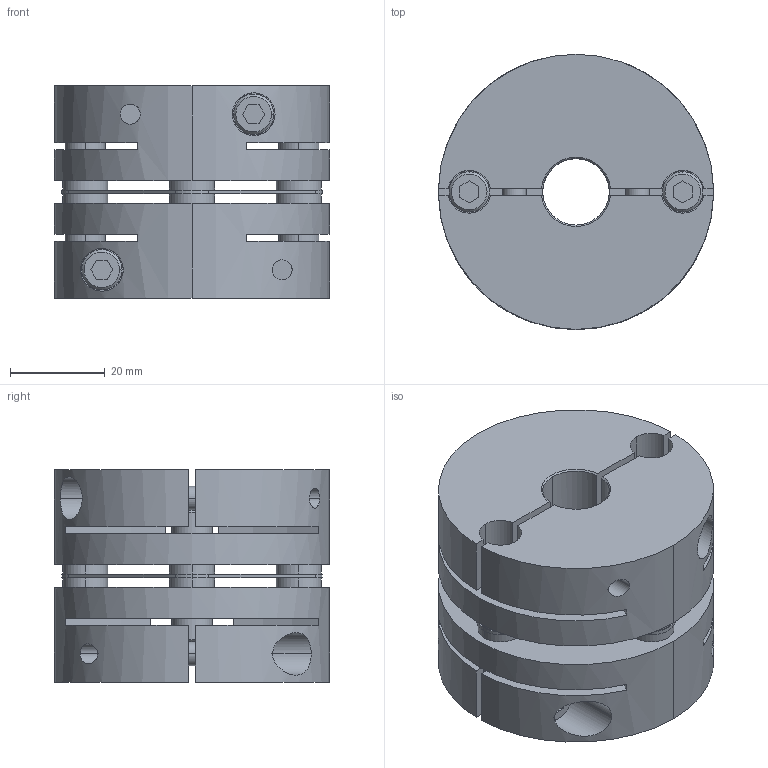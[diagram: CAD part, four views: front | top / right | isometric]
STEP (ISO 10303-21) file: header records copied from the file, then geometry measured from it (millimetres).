
FILE_DESCRIPTION((''),'2;1');
FILE_NAME('LAS-58C-14×20.stp','2015-10-15T14:46:09',(''),(''),'AutoCAD STEP 2000i','AutoCAD 2000i',', , ');
FILE_SCHEMA(('CONFIG_CONTROL_DESIGN'));
Length unit declared in the file: millimetre
Products named in the file (6): LAS-58C-12×19; 忣兜1; LA-5802-D19; LA-5802-D12-1; LA-5802-D12; LAS58-ITA
Assembly tree (5 placements, depth 2):
  LAS-58C-12×19
    忣兜1
    LA-5802-D19
    LA-5802-D12-1
    LA-5802-D12
    LAS58-ITA
Bounding box: 58 x 58 x 44.8 mm (x, y, z)
Volume: 87060.8 mm3; surface area: 33283.5 mm2
Topology: 1 solids, 1 shells, 238 faces, 618 edges, 404 vertices
Faces by surface type: plane 114, cylinder 96, cone 28
Entity records: 8213 total; most frequent: CARTESIAN_POINT 1988, DIRECTION 1316, ORIENTED_EDGE 1240, EDGE_CURVE 620, AXIS2_PLACEMENT_3D 484, VERTEX_POINT 404, VECTOR 348, LINE 348
